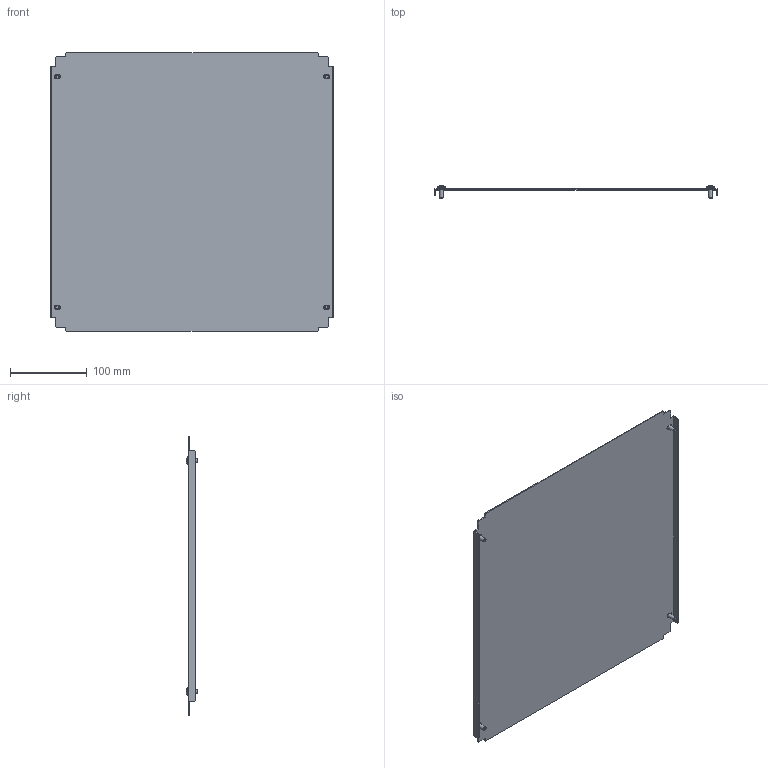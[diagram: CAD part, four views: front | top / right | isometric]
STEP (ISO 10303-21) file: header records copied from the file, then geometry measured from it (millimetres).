
FILE_DESCRIPTION (( 'STEP AP203' ), '1' );
FILE_NAME ('R5N1BP55.STEP', '2025-02-21T13:51:35', ( '' ), ( '' ), 'SwSTEP 2.0', 'SolidWorks 2022', '' );
FILE_SCHEMA (( 'CONFIG_CONTROL_DESIGN' ));
Length unit declared in the file: millimetre
Products named in the file (3): R5N1BP55; M5x12 DIN 7500 C Torx Zinc_stright; RB.1923.00.00.0_-22
Assembly tree (5 placements, depth 2):
  R5N1BP55
    RB.1923.00.00.0_-22
    M5x12 DIN 7500 C Torx Zinc_stright  x4
Bounding box: 368 x 15.56 x 362 mm (x, y, z)
Volume: 207458.6 mm3; surface area: 278411.7 mm2
Topology: 5 solids, 5 shells, 126 faces, 300 edges, 188 vertices
Faces by surface type: plane 86, cylinder 16, torus 8, cone 8, sphere 4, bspline 4
Full cylindrical faces by diameter (mm): 5 x4, 9.5 x4
Entity records: 2953 total; most frequent: CARTESIAN_POINT 624, ORIENTED_EDGE 400, DIRECTION 392, EDGE_CURVE 200, VECTOR 164, LINE 164, VERTEX_POINT 134, AXIS2_PLACEMENT_3D 114
